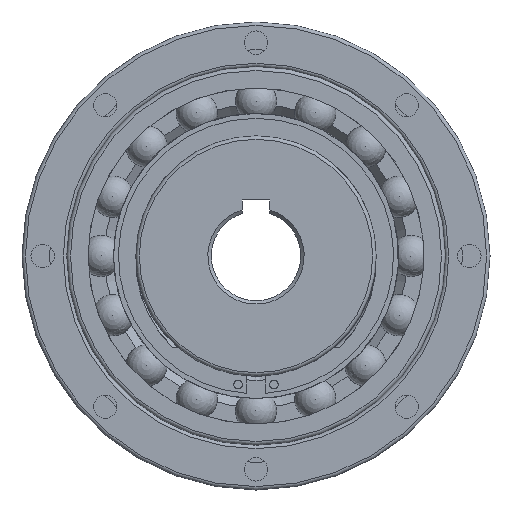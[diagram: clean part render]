
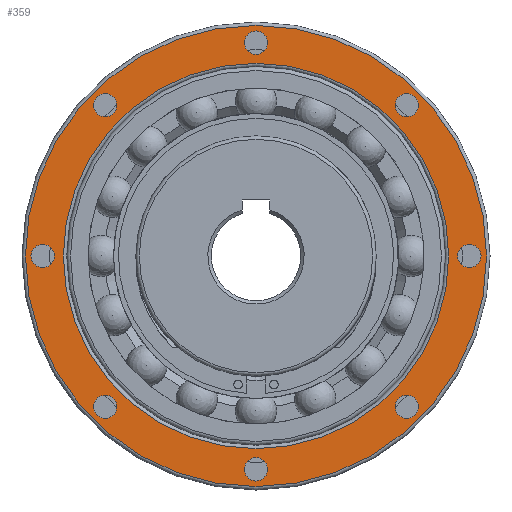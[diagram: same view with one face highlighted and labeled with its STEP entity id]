
A CAD part, left-side view. The second image highlights one B-rep face of the part: STEP entity #359.
In plain terms, the highlighted planar face has unit normal (-1, 0, 0).
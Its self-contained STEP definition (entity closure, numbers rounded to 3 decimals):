
#359 = ADVANCED_FACE( '', ( #838, #839, #840, #841, #842, #843, #844, #845, #846, #847 ), #848, .F. );
#838 = FACE_OUTER_BOUND( '', #1460, .T. );
#839 = FACE_BOUND( '', #1461, .T. );
#840 = FACE_BOUND( '', #1462, .T. );
#841 = FACE_BOUND( '', #1463, .T. );
#842 = FACE_BOUND( '', #1464, .T. );
#843 = FACE_BOUND( '', #1465, .T. );
#844 = FACE_BOUND( '', #1466, .T. );
#845 = FACE_BOUND( '', #1467, .T. );
#846 = FACE_BOUND( '', #1468, .T. );
#847 = FACE_BOUND( '', #1469, .T. );
#848 = PLANE( '', #1470 );
#1460 = EDGE_LOOP( '', ( #2513 ) );
#1461 = EDGE_LOOP( '', ( #2514 ) );
#1462 = EDGE_LOOP( '', ( #2515 ) );
#1463 = EDGE_LOOP( '', ( #2516 ) );
#1464 = EDGE_LOOP( '', ( #2517 ) );
#1465 = EDGE_LOOP( '', ( #2518 ) );
#1466 = EDGE_LOOP( '', ( #2519 ) );
#1467 = EDGE_LOOP( '', ( #2520 ) );
#1468 = EDGE_LOOP( '', ( #2521 ) );
#1469 = EDGE_LOOP( '', ( #2522 ) );
#1470 = AXIS2_PLACEMENT_3D( '', #2523, #2524, #2525 );
#2513 = ORIENTED_EDGE( '', *, *, #3669, .T. );
#2514 = ORIENTED_EDGE( '', *, *, #3592, .T. );
#2515 = ORIENTED_EDGE( '', *, *, #3670, .T. );
#2516 = ORIENTED_EDGE( '', *, *, #3351, .T. );
#2517 = ORIENTED_EDGE( '', *, *, #3469, .T. );
#2518 = ORIENTED_EDGE( '', *, *, #3444, .T. );
#2519 = ORIENTED_EDGE( '', *, *, #3671, .T. );
#2520 = ORIENTED_EDGE( '', *, *, #3429, .T. );
#2521 = ORIENTED_EDGE( '', *, *, #3672, .T. );
#2522 = ORIENTED_EDGE( '', *, *, #3673, .T. );
#2523 = CARTESIAN_POINT( '', ( 3.5, 0., 68. ) );
#2524 = DIRECTION( '', ( 1., 0., 0. ) );
#2525 = DIRECTION( '', ( 0., 1., 0. ) );
#3351 = EDGE_CURVE( '', #3980, #3980, #3981, .T. );
#3429 = EDGE_CURVE( '', #4117, #4117, #4118, .T. );
#3444 = EDGE_CURVE( '', #4142, #4142, #4143, .T. );
#3469 = EDGE_CURVE( '', #4182, #4182, #4183, .T. );
#3592 = EDGE_CURVE( '', #4375, #4375, #4376, .T. );
#3669 = EDGE_CURVE( '', #4487, #4487, #4488, .T. );
#3670 = EDGE_CURVE( '', #4489, #4489, #4490, .T. );
#3671 = EDGE_CURVE( '', #4491, #4491, #4492, .T. );
#3672 = EDGE_CURVE( '', #4493, #4493, #4494, .T. );
#3673 = EDGE_CURVE( '', #4495, #4495, #4496, .T. );
#3980 = VERTEX_POINT( '', #4991 );
#3981 = CIRCLE( '', #4992, 3.4 );
#4117 = VERTEX_POINT( '', #5391 );
#4118 = CIRCLE( '', #5392, 3.4 );
#4142 = VERTEX_POINT( '', #5515 );
#4143 = CIRCLE( '', #5516, 3.4 );
#4182 = VERTEX_POINT( '', #5683 );
#4183 = CIRCLE( '', #5684, 3.4 );
#4375 = VERTEX_POINT( '', #6291 );
#4376 = CIRCLE( '', #6292, 56. );
#4487 = VERTEX_POINT( '', #6556 );
#4488 = CIRCLE( '', #6557, 67. );
#4489 = VERTEX_POINT( '', #6558 );
#4490 = CIRCLE( '', #6559, 3.4 );
#4491 = VERTEX_POINT( '', #6560 );
#4492 = CIRCLE( '', #6561, 3.4 );
#4493 = VERTEX_POINT( '', #6562 );
#4494 = CIRCLE( '', #6563, 3.4 );
#4495 = VERTEX_POINT( '', #6564 );
#4496 = CIRCLE( '', #6565, 3.4 );
#4991 = CARTESIAN_POINT( '', ( 3.5, -43.841, -47.241 ) );
#4992 = AXIS2_PLACEMENT_3D( '', #7660, #7661, #7662 );
#5391 = CARTESIAN_POINT( '', ( 3.5, 43.841, 40.441 ) );
#5392 = AXIS2_PLACEMENT_3D( '', #7747, #7748, #7749 );
#5515 = CARTESIAN_POINT( '', ( 3.5, 43.841, -47.241 ) );
#5516 = AXIS2_PLACEMENT_3D( '', #7758, #7759, #7760 );
#5683 = CARTESIAN_POINT( '', ( 3.5, 0., -65.4 ) );
#5684 = AXIS2_PLACEMENT_3D( '', #7779, #7780, #7781 );
#6291 = CARTESIAN_POINT( '', ( 3.5, 0., -56. ) );
#6292 = AXIS2_PLACEMENT_3D( '', #7930, #7931, #7932 );
#6556 = CARTESIAN_POINT( '', ( 3.5, 0., -67. ) );
#6557 = AXIS2_PLACEMENT_3D( '', #8024, #8025, #8026 );
#6558 = CARTESIAN_POINT( '', ( 3.5, -62., -3.4 ) );
#6559 = AXIS2_PLACEMENT_3D( '', #8027, #8028, #8029 );
#6560 = CARTESIAN_POINT( '', ( 3.5, 62., -3.4 ) );
#6561 = AXIS2_PLACEMENT_3D( '', #8030, #8031, #8032 );
#6562 = CARTESIAN_POINT( '', ( 3.5, 0., 58.6 ) );
#6563 = AXIS2_PLACEMENT_3D( '', #8033, #8034, #8035 );
#6564 = CARTESIAN_POINT( '', ( 3.5, -43.841, 40.441 ) );
#6565 = AXIS2_PLACEMENT_3D( '', #8036, #8037, #8038 );
#7660 = CARTESIAN_POINT( '', ( 3.5, -43.841, -43.841 ) );
#7661 = DIRECTION( '', ( 1., 0., 0. ) );
#7662 = DIRECTION( '', ( 0., 0., -1. ) );
#7747 = CARTESIAN_POINT( '', ( 3.5, 43.841, 43.841 ) );
#7748 = DIRECTION( '', ( 1., 0., 0. ) );
#7749 = DIRECTION( '', ( 0., 0., -1. ) );
#7758 = CARTESIAN_POINT( '', ( 3.5, 43.841, -43.841 ) );
#7759 = DIRECTION( '', ( 1., 0., 0. ) );
#7760 = DIRECTION( '', ( 0., 0., -1. ) );
#7779 = CARTESIAN_POINT( '', ( 3.5, 0., -62. ) );
#7780 = DIRECTION( '', ( 1., 0., 0. ) );
#7781 = DIRECTION( '', ( 0., 0., -1. ) );
#7930 = CARTESIAN_POINT( '', ( 3.5, 0., 0. ) );
#7931 = DIRECTION( '', ( 1., 0., 0. ) );
#7932 = DIRECTION( '', ( 0., 0., -1. ) );
#8024 = CARTESIAN_POINT( '', ( 3.5, 0., 0. ) );
#8025 = DIRECTION( '', ( -1., 0., 0. ) );
#8026 = DIRECTION( '', ( 0., 0., -1. ) );
#8027 = CARTESIAN_POINT( '', ( 3.5, -62., 0. ) );
#8028 = DIRECTION( '', ( 1., 0., 0. ) );
#8029 = DIRECTION( '', ( 0., 0., -1. ) );
#8030 = CARTESIAN_POINT( '', ( 3.5, 62., 0. ) );
#8031 = DIRECTION( '', ( 1., 0., 0. ) );
#8032 = DIRECTION( '', ( 0., 0., -1. ) );
#8033 = CARTESIAN_POINT( '', ( 3.5, 0., 62. ) );
#8034 = DIRECTION( '', ( 1., 0., 0. ) );
#8035 = DIRECTION( '', ( 0., 0., -1. ) );
#8036 = CARTESIAN_POINT( '', ( 3.5, -43.841, 43.841 ) );
#8037 = DIRECTION( '', ( 1., 0., 0. ) );
#8038 = DIRECTION( '', ( 0., 0., -1. ) );
